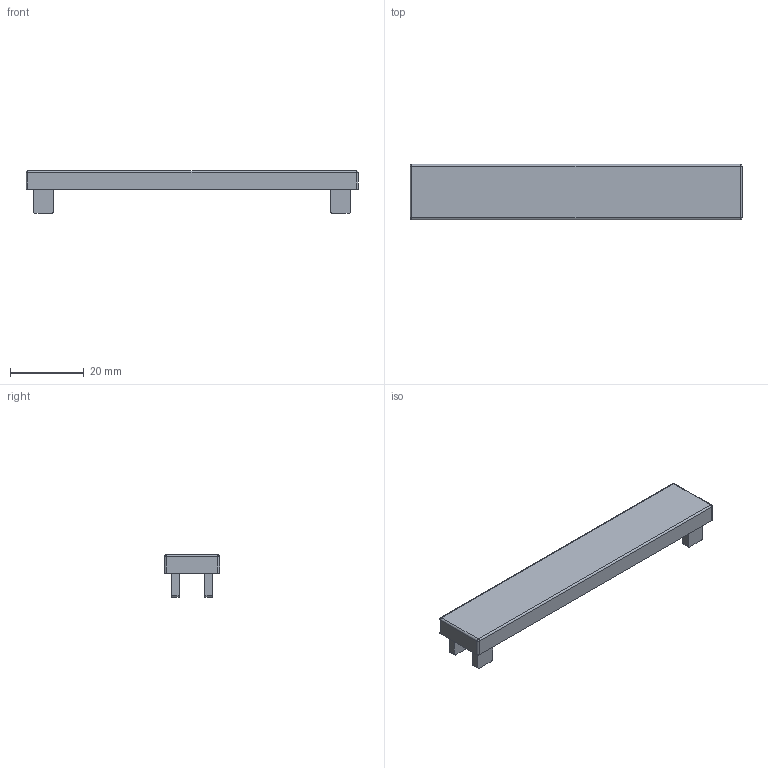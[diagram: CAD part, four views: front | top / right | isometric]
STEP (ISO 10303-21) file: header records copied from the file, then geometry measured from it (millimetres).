
FILE_DESCRIPTION (( 'STEP AP203' ), '1' );
FILE_NAME ('DEC1590.STEP', '2022-06-23T05:37:21', ( '' ), ( '' ), 'SwSTEP 2.0', 'SolidWorks 2017', '' );
FILE_SCHEMA (( 'CONFIG_CONTROL_DESIGN' ));
Length unit declared in the file: millimetre
Products named in the file (1): DEC1590
Bounding box: 90 x 15 x 11.5 mm (x, y, z)
Volume: 3530.9 mm3; surface area: 4997 mm2
Topology: 1 solids, 1 shells, 51 faces, 124 edges, 76 vertices
Faces by surface type: plane 31, cylinder 16, sphere 4
Entity records: 1527 total; most frequent: DIRECTION 256, CARTESIAN_POINT 248, ORIENTED_EDGE 240, EDGE_CURVE 120, VECTOR 88, LINE 88, AXIS2_PLACEMENT_3D 84, VERTEX_POINT 76
